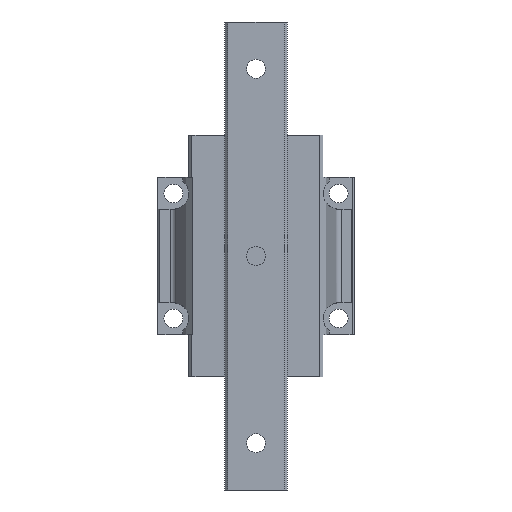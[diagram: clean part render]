
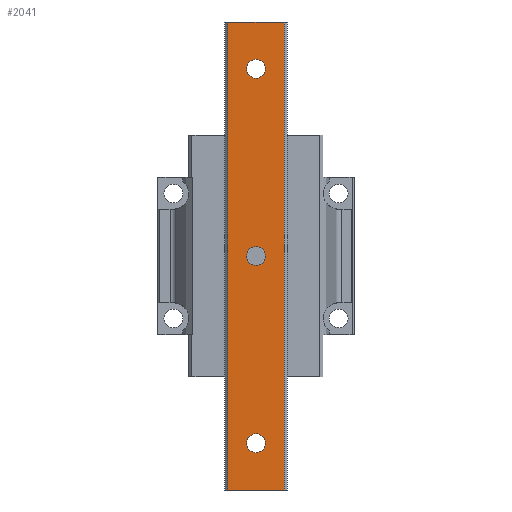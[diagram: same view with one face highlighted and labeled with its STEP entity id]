
A CAD part, front view. The second image highlights one B-rep face of the part: STEP entity #2041.
In plain terms, the highlighted planar face has unit normal (0, -1, 0).
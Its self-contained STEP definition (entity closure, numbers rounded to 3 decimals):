
#8 = ORIENTED_EDGE ( 'NONE', *, *, #10193, .T. ) ;
#166 = CARTESIAN_POINT ( 'NONE',  ( 9., -17.5, -75. ) ) ;
#733 = CARTESIAN_POINT ( 'NONE',  ( 0., -17.5, 60. ) ) ;
#744 = CARTESIAN_POINT ( 'NONE',  ( -9., -17.5, 75. ) ) ;
#774 = LINE ( 'NONE', #3803, #12832 ) ;
#1173 = EDGE_CURVE ( 'NONE', #22413, #36562, #34277, .T. ) ;
#1566 = VECTOR ( 'NONE', #24300, 1000. ) ;
#2041 = ADVANCED_FACE ( 'NONE', ( #15833, #6972, #35991, #12976 ), #24091, .T. ) ;
#2282 = CARTESIAN_POINT ( 'NONE',  ( 0., -17.5, 0. ) ) ;
#2531 = ORIENTED_EDGE ( 'NONE', *, *, #24399, .T. ) ;
#2701 = CIRCLE ( 'NONE', #18938, 3. ) ;
#2755 = CIRCLE ( 'NONE', #24448, 3. ) ;
#3265 = CARTESIAN_POINT ( 'NONE',  ( 0., -17.5, -60. ) ) ;
#3642 = CIRCLE ( 'NONE', #7889, 3. ) ;
#3803 = CARTESIAN_POINT ( 'NONE',  ( -9., -17.5, -75. ) ) ;
#4578 = CARTESIAN_POINT ( 'NONE',  ( 0., -17.5, -63. ) ) ;
#5657 = AXIS2_PLACEMENT_3D ( 'NONE', #34861, #32208, #20516 ) ;
#5659 = CARTESIAN_POINT ( 'NONE',  ( 0., -17.5, -3. ) ) ;
#6212 = DIRECTION ( 'NONE',  ( 0., 1., 0. ) ) ;
#6972 = FACE_BOUND ( 'NONE', #31357, .T. ) ;
#7465 = CIRCLE ( 'NONE', #5657, 3. ) ;
#7711 = VERTEX_POINT ( 'NONE', #12239 ) ;
#7889 = AXIS2_PLACEMENT_3D ( 'NONE', #733, #18992, #32787 ) ;
#8322 = DIRECTION ( 'NONE',  ( 1., 0., 0. ) ) ;
#9023 = ORIENTED_EDGE ( 'NONE', *, *, #24517, .T. ) ;
#9501 = DIRECTION ( 'NONE',  ( 0., 0., 1. ) ) ;
#9520 = CARTESIAN_POINT ( 'NONE',  ( 0., -17.5, -60. ) ) ;
#9589 = AXIS2_PLACEMENT_3D ( 'NONE', #10168, #35613, #32785 ) ;
#9984 = EDGE_CURVE ( 'NONE', #28267, #22413, #20175, .T. ) ;
#10168 = CARTESIAN_POINT ( 'NONE',  ( -9., -17.5, -75. ) ) ;
#10193 = EDGE_CURVE ( 'NONE', #30957, #28471, #3642, .T. ) ;
#10476 = VERTEX_POINT ( 'NONE', #24418 ) ;
#11736 = DIRECTION ( 'NONE',  ( 0., 0., -1. ) ) ;
#11990 = EDGE_CURVE ( 'NONE', #10476, #34989, #14594, .T. ) ;
#12239 = CARTESIAN_POINT ( 'NONE',  ( 0., -17.5, -57. ) ) ;
#12832 = VECTOR ( 'NONE', #11736, 1000. ) ;
#12898 = EDGE_CURVE ( 'NONE', #34989, #10476, #7465, .T. ) ;
#12976 = FACE_OUTER_BOUND ( 'NONE', #15495, .T. ) ;
#13699 = ORIENTED_EDGE ( 'NONE', *, *, #11990, .T. ) ;
#13739 = ORIENTED_EDGE ( 'NONE', *, *, #12898, .T. ) ;
#13879 = ORIENTED_EDGE ( 'NONE', *, *, #35679, .T. ) ;
#14034 = ORIENTED_EDGE ( 'NONE', *, *, #15435, .T. ) ;
#14594 = CIRCLE ( 'NONE', #25974, 3. ) ;
#14605 = ORIENTED_EDGE ( 'NONE', *, *, #28693, .T. ) ;
#15435 = EDGE_CURVE ( 'NONE', #28576, #28267, #774, .T. ) ;
#15495 = EDGE_LOOP ( 'NONE', ( #30496, #14605, #14034, #25541 ) ) ;
#15833 = FACE_BOUND ( 'NONE', #17843, .T. ) ;
#17843 = EDGE_LOOP ( 'NONE', ( #9023, #13879 ) ) ;
#18453 = CARTESIAN_POINT ( 'NONE',  ( -9., -17.5, 75. ) ) ;
#18627 = LINE ( 'NONE', #18453, #1566 ) ;
#18938 = AXIS2_PLACEMENT_3D ( 'NONE', #31640, #6212, #23506 ) ;
#18992 = DIRECTION ( 'NONE',  ( 0., 1., 0. ) ) ;
#19061 = VECTOR ( 'NONE', #36939, 1000. ) ;
#19226 = DIRECTION ( 'NONE',  ( 0., 0., 1. ) ) ;
#19442 = DIRECTION ( 'NONE',  ( 0., 1., 0. ) ) ;
#20175 = LINE ( 'NONE', #28457, #25865 ) ;
#20516 = DIRECTION ( 'NONE',  ( 0., 0., 1. ) ) ;
#20799 = CIRCLE ( 'NONE', #22612, 3. ) ;
#22413 = VERTEX_POINT ( 'NONE', #166 ) ;
#22612 = AXIS2_PLACEMENT_3D ( 'NONE', #9520, #31747, #31913 ) ;
#22630 = CARTESIAN_POINT ( 'NONE',  ( 0., -17.5, 57. ) ) ;
#23506 = DIRECTION ( 'NONE',  ( 0., 0., 1. ) ) ;
#24091 = PLANE ( 'NONE',  #9589 ) ;
#24300 = DIRECTION ( 'NONE',  ( -1., 0., 0. ) ) ;
#24399 = EDGE_CURVE ( 'NONE', #28471, #30957, #2701, .T. ) ;
#24418 = CARTESIAN_POINT ( 'NONE',  ( 0., -17.5, 3. ) ) ;
#24448 = AXIS2_PLACEMENT_3D ( 'NONE', #3265, #35320, #9501 ) ;
#24517 = EDGE_CURVE ( 'NONE', #7711, #36293, #20799, .T. ) ;
#25541 = ORIENTED_EDGE ( 'NONE', *, *, #9984, .T. ) ;
#25656 = CARTESIAN_POINT ( 'NONE',  ( 9., -17.5, 75. ) ) ;
#25865 = VECTOR ( 'NONE', #8322, 1000. ) ;
#25974 = AXIS2_PLACEMENT_3D ( 'NONE', #2282, #19442, #19226 ) ;
#26224 = CARTESIAN_POINT ( 'NONE',  ( -9., -17.5, -75. ) ) ;
#27687 = CARTESIAN_POINT ( 'NONE',  ( 0., -17.5, 63. ) ) ;
#28267 = VERTEX_POINT ( 'NONE', #26224 ) ;
#28457 = CARTESIAN_POINT ( 'NONE',  ( -9., -17.5, -75. ) ) ;
#28471 = VERTEX_POINT ( 'NONE', #22630 ) ;
#28576 = VERTEX_POINT ( 'NONE', #744 ) ;
#28693 = EDGE_CURVE ( 'NONE', #36562, #28576, #18627, .T. ) ;
#30496 = ORIENTED_EDGE ( 'NONE', *, *, #1173, .T. ) ;
#30957 = VERTEX_POINT ( 'NONE', #27687 ) ;
#31357 = EDGE_LOOP ( 'NONE', ( #8, #2531 ) ) ;
#31640 = CARTESIAN_POINT ( 'NONE',  ( 0., -17.5, 60. ) ) ;
#31747 = DIRECTION ( 'NONE',  ( 0., 1., 0. ) ) ;
#31913 = DIRECTION ( 'NONE',  ( 0., 0., 1. ) ) ;
#32208 = DIRECTION ( 'NONE',  ( 0., 1., 0. ) ) ;
#32785 = DIRECTION ( 'NONE',  ( 0., 0., -1. ) ) ;
#32787 = DIRECTION ( 'NONE',  ( 0., 0., 1. ) ) ;
#34103 = EDGE_LOOP ( 'NONE', ( #13699, #13739 ) ) ;
#34277 = LINE ( 'NONE', #34474, #19061 ) ;
#34474 = CARTESIAN_POINT ( 'NONE',  ( 9., -17.5, -75. ) ) ;
#34861 = CARTESIAN_POINT ( 'NONE',  ( 0., -17.5, 0. ) ) ;
#34989 = VERTEX_POINT ( 'NONE', #5659 ) ;
#35320 = DIRECTION ( 'NONE',  ( 0., 1., 0. ) ) ;
#35613 = DIRECTION ( 'NONE',  ( 0., -1., 0. ) ) ;
#35679 = EDGE_CURVE ( 'NONE', #36293, #7711, #2755, .T. ) ;
#35991 = FACE_BOUND ( 'NONE', #34103, .T. ) ;
#36293 = VERTEX_POINT ( 'NONE', #4578 ) ;
#36562 = VERTEX_POINT ( 'NONE', #25656 ) ;
#36939 = DIRECTION ( 'NONE',  ( 0., 0., 1. ) ) ;
